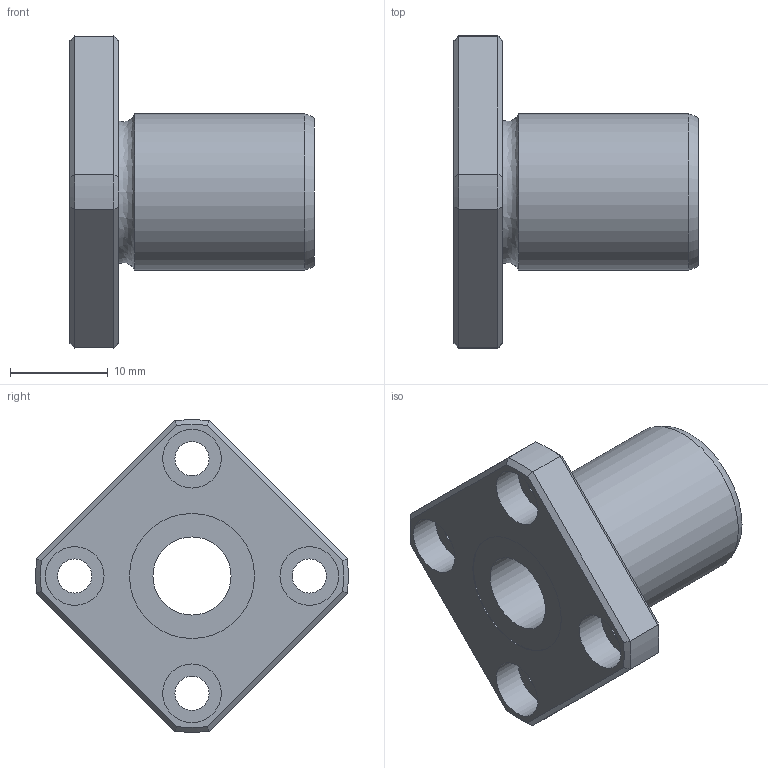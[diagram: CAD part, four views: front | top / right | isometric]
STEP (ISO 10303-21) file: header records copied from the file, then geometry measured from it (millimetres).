
FILE_DESCRIPTION((''),'2;1');
FILE_NAME('D:\製品 (図面)\カタログ用3D\リニアベアリング関連\STEP形式\LFK\LFK8.stp','2010-06-04T08:46:51',('Tsuchiya'),(''),'Autodesk Inventor 10','Autodesk Inventor 10','');
FILE_SCHEMA(('AUTOMOTIVE_DESIGN { 1 0 10303 214 1 1 1 1 }'));
Length unit declared in the file: millimetre
Products named in the file (1): LFK8
Bounding box: 25 x 31.98 x 31.98 mm (x, y, z)
Volume: 5301.8 mm3; surface area: 3447.5 mm2
Topology: 1 solids, 1 shells, 47 faces, 96 edges, 58 vertices
Faces by surface type: plane 21, cylinder 16, cone 8, torus 1, bspline 1
Full cylindrical faces by diameter (mm): 3.5 x4, 6 x4, 8 x1, 12.8 x2, 16 x1
Entity records: 1275 total; most frequent: CARTESIAN_POINT 298, DIRECTION 202, ORIENTED_EDGE 164, AXIS2_PLACEMENT_3D 89, EDGE_CURVE 82, EDGE_LOOP 78, VERTEX_POINT 58, FACE_OUTER_BOUND 47
